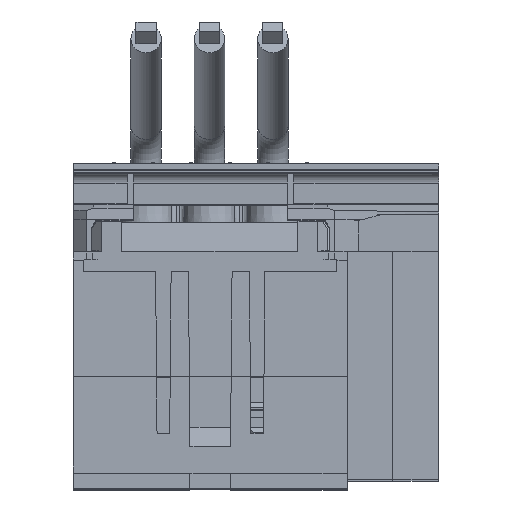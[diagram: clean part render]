
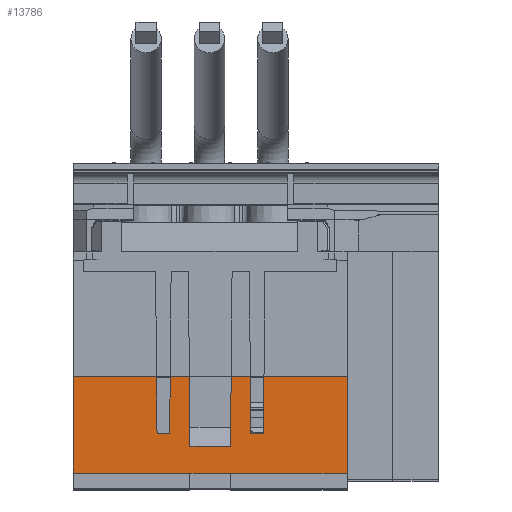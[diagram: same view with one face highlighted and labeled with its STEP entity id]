
A CAD part, top view. The second image highlights one B-rep face of the part: STEP entity #13786.
In plain terms, the highlighted planar face has unit normal (0, -0.009, 1).
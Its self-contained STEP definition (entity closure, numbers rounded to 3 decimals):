
#261 = CARTESIAN_POINT ( 'NONE',  ( -26., -23.5, 199.833 ) ) ;
#602 = ORIENTED_EDGE ( 'NONE', *, *, #32713, .T. ) ;
#1000 = EDGE_CURVE ( 'NONE', #90960, #67221, #92489, .T. ) ;
#1501 = CARTESIAN_POINT ( 'NONE',  ( 8., -15.7, 199.902 ) ) ;
#3205 = DIRECTION ( 'NONE',  ( -0.009, -1., -0.009 ) ) ;
#5119 = AXIS2_PLACEMENT_3D ( 'NONE', #34201, #80078, #11111 ) ;
#5222 = VERTEX_POINT ( 'NONE', #33148 ) ;
#5413 = LINE ( 'NONE', #71033, #39416 ) ;
#6544 = VERTEX_POINT ( 'NONE', #68594 ) ;
#6722 = ORIENTED_EDGE ( 'NONE', *, *, #31255, .T. ) ;
#6882 = VERTEX_POINT ( 'NONE', #71014 ) ;
#6947 = DIRECTION ( 'NONE',  ( -0.009, 1., 0.009 ) ) ;
#7134 = VECTOR ( 'NONE', #30304, 1000. ) ;
#7192 = CARTESIAN_POINT ( 'NONE',  ( -26., -4.5, 199.999 ) ) ;
#7341 = LINE ( 'NONE', #46348, #44966 ) ;
#7790 = CARTESIAN_POINT ( 'NONE',  ( -26., -18.18, 199.88 ) ) ;
#8075 = LINE ( 'NONE', #44446, #88244 ) ;
#8158 = VERTEX_POINT ( 'NONE', #54025 ) ;
#8605 = CARTESIAN_POINT ( 'NONE',  ( -10.5, -15.7, 199.902 ) ) ;
#10585 = LINE ( 'NONE', #81983, #70200 ) ;
#10599 = CARTESIAN_POINT ( 'NONE',  ( -27., -23.5, 199.833 ) ) ;
#10845 = VECTOR ( 'NONE', #6947, 1000. ) ;
#10873 = ORIENTED_EDGE ( 'NONE', *, *, #59366, .F. ) ;
#11111 = DIRECTION ( 'NONE',  ( 0., -1., -0.009 ) ) ;
#11189 = LINE ( 'NONE', #42741, #75654 ) ;
#12136 = DIRECTION ( 'NONE',  ( -0.009, -1., -0.009 ) ) ;
#12378 = CARTESIAN_POINT ( 'NONE',  ( 27., -23.5, 199.833 ) ) ;
#12627 = DIRECTION ( 'NONE',  ( 1., 0., 0. ) ) ;
#12650 = DIRECTION ( 'NONE',  ( 0., -1., -0.009 ) ) ;
#12891 = CARTESIAN_POINT ( 'NONE',  ( -10.598, -4.5, 199.999 ) ) ;
#13786 = ADVANCED_FACE ( 'NONE', ( #63249 ), #81091, .T. ) ;
#16109 = EDGE_CURVE ( 'NONE', #6544, #6882, #69153, .T. ) ;
#16501 = CARTESIAN_POINT ( 'NONE',  ( 4., -23.5, 199.833 ) ) ;
#20176 = CARTESIAN_POINT ( 'NONE',  ( -27., -4.5, 199.999 ) ) ;
#21789 = CARTESIAN_POINT ( 'NONE',  ( -4.122, -4.5, 199.999 ) ) ;
#23854 = VERTEX_POINT ( 'NONE', #10599 ) ;
#24065 = DIRECTION ( 'NONE',  ( -1., 0., 0. ) ) ;
#24396 = VECTOR ( 'NONE', #3205, 1000. ) ;
#24806 = LINE ( 'NONE', #48832, #78317 ) ;
#25044 = CARTESIAN_POINT ( 'NONE',  ( -4., -23.5, 199.833 ) ) ;
#25584 = DIRECTION ( 'NONE',  ( -0.009, 1., 0.009 ) ) ;
#25681 = ORIENTED_EDGE ( 'NONE', *, *, #27972, .T. ) ;
#25743 = VERTEX_POINT ( 'NONE', #76736 ) ;
#27721 = VERTEX_POINT ( 'NONE', #12378 ) ;
#27788 = LINE ( 'NONE', #93130, #7134 ) ;
#27972 = EDGE_CURVE ( 'NONE', #87723, #71102, #99386, .T. ) ;
#28499 = ORIENTED_EDGE ( 'NONE', *, *, #70121, .F. ) ;
#28956 = LINE ( 'NONE', #36148, #10845 ) ;
#30304 = DIRECTION ( 'NONE',  ( -1., 0., 0. ) ) ;
#30972 = ORIENTED_EDGE ( 'NONE', *, *, #96392, .T. ) ;
#31255 = EDGE_CURVE ( 'NONE', #67500, #23854, #10585, .T. ) ;
#32704 = CARTESIAN_POINT ( 'NONE',  ( 10.598, -4.5, 199.999 ) ) ;
#32713 = EDGE_CURVE ( 'NONE', #23854, #90960, #91713, .T. ) ;
#33148 = CARTESIAN_POINT ( 'NONE',  ( 8., -15.7, 199.902 ) ) ;
#34201 = CARTESIAN_POINT ( 'NONE',  ( -26., 18.5, 200.2 ) ) ;
#34374 = CARTESIAN_POINT ( 'NONE',  ( 4., -23.5, 199.833 ) ) ;
#34546 = LINE ( 'NONE', #1501, #44320 ) ;
#35027 = ORIENTED_EDGE ( 'NONE', *, *, #37283, .T. ) ;
#35955 = DIRECTION ( 'NONE',  ( -1., 0., 0. ) ) ;
#36148 = CARTESIAN_POINT ( 'NONE',  ( -4.003, -18.18, 199.88 ) ) ;
#36394 = CARTESIAN_POINT ( 'NONE',  ( -26., -4.5, 199.999 ) ) ;
#36774 = VERTEX_POINT ( 'NONE', #71847 ) ;
#37283 = EDGE_CURVE ( 'NONE', #51653, #5222, #27788, .T. ) ;
#38338 = VERTEX_POINT ( 'NONE', #32704 ) ;
#39085 = CARTESIAN_POINT ( 'NONE',  ( 10.5, -15.7, 199.902 ) ) ;
#39416 = VECTOR ( 'NONE', #78807, 1000. ) ;
#39741 = CARTESIAN_POINT ( 'NONE',  ( -26., -23.5, 199.833 ) ) ;
#42628 = CARTESIAN_POINT ( 'NONE',  ( 27., 18.5, 200.2 ) ) ;
#42741 = CARTESIAN_POINT ( 'NONE',  ( 4.303, 16.2, 200.18 ) ) ;
#42914 = EDGE_LOOP ( 'NONE', ( #10873, #6722, #602, #74855, #66147, #60714, #94587, #85958, #35027, #55611, #62048, #30972, #93163, #89561, #28499, #79101, #50279, #25681 ) ) ;
#44224 = DIRECTION ( 'NONE',  ( 1., 0., 0. ) ) ;
#44320 = VECTOR ( 'NONE', #25584, 1000. ) ;
#44446 = CARTESIAN_POINT ( 'NONE',  ( -26., -15.7, 199.902 ) ) ;
#44966 = VECTOR ( 'NONE', #60994, 1000. ) ;
#46163 = VECTOR ( 'NONE', #61740, 1000. ) ;
#46348 = CARTESIAN_POINT ( 'NONE',  ( -26., -4.5, 199.999 ) ) ;
#48400 = CARTESIAN_POINT ( 'NONE',  ( -10.5, -15.7, 199.902 ) ) ;
#48442 = VECTOR ( 'NONE', #24065, 1000. ) ;
#48832 = CARTESIAN_POINT ( 'NONE',  ( -26., -4.5, 199.999 ) ) ;
#48961 = VECTOR ( 'NONE', #50424, 1000. ) ;
#50279 = ORIENTED_EDGE ( 'NONE', *, *, #92217, .T. ) ;
#50424 = DIRECTION ( 'NONE',  ( 0., 1., 0.009 ) ) ;
#50934 = EDGE_CURVE ( 'NONE', #38338, #89156, #7341, .T. ) ;
#51653 = VERTEX_POINT ( 'NONE', #39085 ) ;
#52333 = LINE ( 'NONE', #64010, #24396 ) ;
#52496 = EDGE_CURVE ( 'NONE', #6882, #89019, #28956, .T. ) ;
#52694 = DIRECTION ( 'NONE',  ( 1., 0., 0. ) ) ;
#54025 = CARTESIAN_POINT ( 'NONE',  ( -7.902, -4.5, 199.999 ) ) ;
#55379 = DIRECTION ( 'NONE',  ( 1., 0., 0. ) ) ;
#55611 = ORIENTED_EDGE ( 'NONE', *, *, #93117, .T. ) ;
#55986 = DIRECTION ( 'NONE',  ( 1., 0., 0. ) ) ;
#59366 = EDGE_CURVE ( 'NONE', #67500, #71102, #24806, .T. ) ;
#60047 = EDGE_CURVE ( 'NONE', #27721, #89156, #62453, .T. ) ;
#60714 = ORIENTED_EDGE ( 'NONE', *, *, #60047, .T. ) ;
#60720 = LINE ( 'NONE', #261, #46163 ) ;
#60994 = DIRECTION ( 'NONE',  ( 1., 0., 0. ) ) ;
#61740 = DIRECTION ( 'NONE',  ( 1., 0., 0. ) ) ;
#62048 = ORIENTED_EDGE ( 'NONE', *, *, #90657, .F. ) ;
#62453 = LINE ( 'NONE', #42628, #48961 ) ;
#62587 = VECTOR ( 'NONE', #44224, 1000. ) ;
#63249 = FACE_OUTER_BOUND ( 'NONE', #42914, .T. ) ;
#63517 = CARTESIAN_POINT ( 'NONE',  ( 27., -4.5, 199.999 ) ) ;
#63694 = EDGE_CURVE ( 'NONE', #38338, #51653, #5413, .T. ) ;
#64010 = CARTESIAN_POINT ( 'NONE',  ( -7.722, 16.2, 200.18 ) ) ;
#64186 = LINE ( 'NONE', #7192, #71546 ) ;
#66147 = ORIENTED_EDGE ( 'NONE', *, *, #89801, .T. ) ;
#67221 = VERTEX_POINT ( 'NONE', #16501 ) ;
#67500 = VERTEX_POINT ( 'NONE', #20176 ) ;
#68594 = CARTESIAN_POINT ( 'NONE',  ( 4.003, -18.18, 199.88 ) ) ;
#69153 = LINE ( 'NONE', #7790, #48442 ) ;
#70121 = EDGE_CURVE ( 'NONE', #8158, #89019, #88405, .T. ) ;
#70200 = VECTOR ( 'NONE', #12650, 1000. ) ;
#71014 = CARTESIAN_POINT ( 'NONE',  ( -4.003, -18.18, 199.88 ) ) ;
#71033 = CARTESIAN_POINT ( 'NONE',  ( 10.778, 16.2, 200.18 ) ) ;
#71102 = VERTEX_POINT ( 'NONE', #12891 ) ;
#71546 = VECTOR ( 'NONE', #52694, 1000. ) ;
#71847 = CARTESIAN_POINT ( 'NONE',  ( 7.902, -4.5, 199.999 ) ) ;
#74855 = ORIENTED_EDGE ( 'NONE', *, *, #1000, .T. ) ;
#74994 = VECTOR ( 'NONE', #100697, 1000. ) ;
#75654 = VECTOR ( 'NONE', #12136, 1000. ) ;
#76736 = CARTESIAN_POINT ( 'NONE',  ( 4.122, -4.5, 199.999 ) ) ;
#78317 = VECTOR ( 'NONE', #55986, 1000. ) ;
#78807 = DIRECTION ( 'NONE',  ( -0.009, -1., -0.009 ) ) ;
#79101 = ORIENTED_EDGE ( 'NONE', *, *, #84080, .T. ) ;
#79274 = VERTEX_POINT ( 'NONE', #93855 ) ;
#80078 = DIRECTION ( 'NONE',  ( 0., -0.009, 1. ) ) ;
#81091 = PLANE ( 'NONE',  #5119 ) ;
#81983 = CARTESIAN_POINT ( 'NONE',  ( -27., 18.5, 200.2 ) ) ;
#84080 = EDGE_CURVE ( 'NONE', #8158, #79274, #52333, .T. ) ;
#85168 = VECTOR ( 'NONE', #55379, 1000. ) ;
#85790 = VECTOR ( 'NONE', #12627, 1000. ) ;
#85958 = ORIENTED_EDGE ( 'NONE', *, *, #63694, .T. ) ;
#87723 = VERTEX_POINT ( 'NONE', #48400 ) ;
#88244 = VECTOR ( 'NONE', #35955, 1000. ) ;
#88405 = LINE ( 'NONE', #36394, #85790 ) ;
#89019 = VERTEX_POINT ( 'NONE', #21789 ) ;
#89156 = VERTEX_POINT ( 'NONE', #63517 ) ;
#89561 = ORIENTED_EDGE ( 'NONE', *, *, #52496, .T. ) ;
#89801 = EDGE_CURVE ( 'NONE', #67221, #27721, #60720, .T. ) ;
#90657 = EDGE_CURVE ( 'NONE', #25743, #36774, #64186, .T. ) ;
#90960 = VERTEX_POINT ( 'NONE', #25044 ) ;
#91713 = LINE ( 'NONE', #34374, #62587 ) ;
#92217 = EDGE_CURVE ( 'NONE', #79274, #87723, #8075, .T. ) ;
#92489 = LINE ( 'NONE', #39741, #85168 ) ;
#93117 = EDGE_CURVE ( 'NONE', #5222, #36774, #34546, .T. ) ;
#93130 = CARTESIAN_POINT ( 'NONE',  ( -26., -15.7, 199.902 ) ) ;
#93163 = ORIENTED_EDGE ( 'NONE', *, *, #16109, .T. ) ;
#93855 = CARTESIAN_POINT ( 'NONE',  ( -8., -15.7, 199.902 ) ) ;
#94587 = ORIENTED_EDGE ( 'NONE', *, *, #50934, .F. ) ;
#96392 = EDGE_CURVE ( 'NONE', #25743, #6544, #11189, .T. ) ;
#99386 = LINE ( 'NONE', #8605, #74994 ) ;
#100697 = DIRECTION ( 'NONE',  ( -0.009, 1., 0.009 ) ) ;
